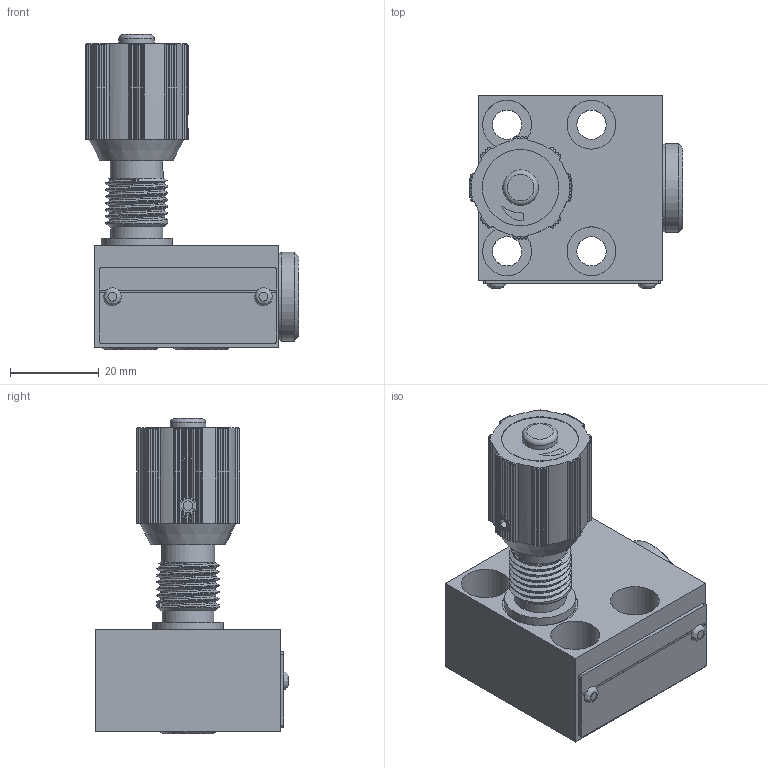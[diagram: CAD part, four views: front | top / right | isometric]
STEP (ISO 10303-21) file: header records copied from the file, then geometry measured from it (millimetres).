
FILE_DESCRIPTION(/* description */ (''),/* implementation_level */ '2;1');
FILE_NAME(/* name */ 'DRVP6-1XJ单向节流截止阀.prt.stp',/* time_stamp */ '2022-03-30T19:59:21+08:00',/* author */ (''),/* organization */ (''),/* preprocessor_version */ 'ST-DEVELOPER v16.7',/* originating_system */ 'SIEMENS PLM Software NX 12.0',/* authorisation */ '');
FILE_SCHEMA (('AUTOMOTIVE_DESIGN { 1 0 10303 214 3 1 1 1 }'));
Length unit declared in the file: millimetre
Products named in the file (1): DRVP6-1XJ单向节流截止阀
Bounding box: 48.16 x 43.3 x 70.94 mm (x, y, z)
Volume: 47636.8 mm3; surface area: 21893.3 mm2
Topology: 18 solids, 20 shells, 427 faces, 1105 edges, 733 vertices
Faces by surface type: plane 225, cylinder 154, bspline 19, cone 16, torus 13
Full cylindrical faces by diameter (mm): 1.8 x6, 3.2 x2, 3.4 x1, 4 x16, 6 x2, 6.6 x4, 6.9 x1, 8 x3, 10 x1, 11 x4, 11.7 x1, 12 x2, 12.2 x2, 12.8 x1, 13.1 x5, 13.4 x1, 14 x1, 14.3 x1, 16 x1, 17 x1, 17.2 x2, 17.5 x2, 19.7 x1, 20 x1, 21 x1, 21.6 x1
Entity records: 24748 total; most frequent: CARTESIAN_POINT 15254, ORIENTED_EDGE 1892, DIRECTION 1841, EDGE_CURVE 946, AXIS2_PLACEMENT_3D 705, VERTEX_POINT 668, EDGE_LOOP 517, LINE 431
